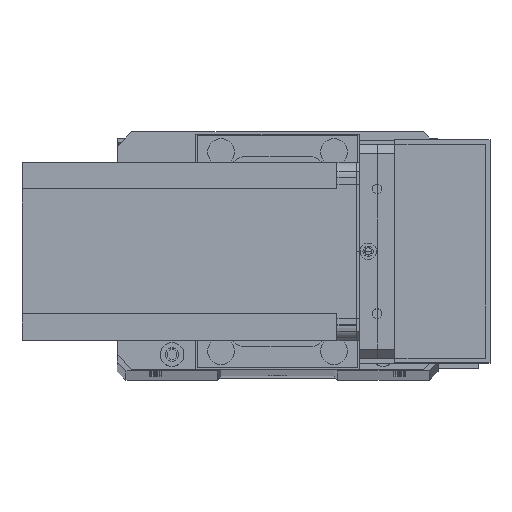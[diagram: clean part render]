
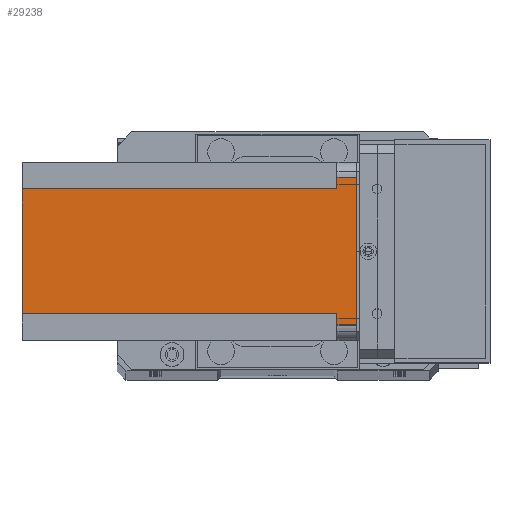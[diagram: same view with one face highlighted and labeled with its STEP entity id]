
A CAD part, top view. The second image highlights one B-rep face of the part: STEP entity #29238.
In plain terms, the highlighted planar face has unit normal (0, 0, 1) as drawn and (1, 0, 0) by its records, which use the part's own axes.
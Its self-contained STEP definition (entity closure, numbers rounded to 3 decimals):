
#108 = CARTESIAN_POINT ( 'NONE',  ( 60., 0., -112.5 ) ) ;
#279 = EDGE_CURVE ( 'NONE', #4803, #17675, #29519, .T. ) ;
#406 = CARTESIAN_POINT ( 'NONE',  ( 60., 0., -112.5 ) ) ;
#471 = EDGE_CURVE ( 'NONE', #31850, #15294, #11460, .T. ) ;
#1517 = EDGE_CURVE ( 'NONE', #4803, #31063, #29818, .T. ) ;
#1713 = FACE_OUTER_BOUND ( 'NONE', #19375, .T. ) ;
#2544 = VERTEX_POINT ( 'NONE', #11643 ) ;
#2596 = EDGE_CURVE ( 'NONE', #17675, #6983, #4299, .T. ) ;
#2654 = DIRECTION ( 'NONE',  ( 0., 1., 0. ) ) ;
#2778 = CARTESIAN_POINT ( 'NONE',  ( 60., 5., -112.5 ) ) ;
#2883 = VECTOR ( 'NONE', #11224, 1000. ) ;
#2948 = DIRECTION ( 'NONE',  ( 0., 1., 0. ) ) ;
#3171 = EDGE_CURVE ( 'NONE', #2544, #31850, #22657, .T. ) ;
#3598 = EDGE_CURVE ( 'NONE', #27562, #15294, #16804, .T. ) ;
#4249 = VECTOR ( 'NONE', #15239, 1000. ) ;
#4299 = LINE ( 'NONE', #14380, #30143 ) ;
#4426 = DIRECTION ( 'NONE',  ( 0., 0., -1. ) ) ;
#4661 = ORIENTED_EDGE ( 'NONE', *, *, #3598, .T. ) ;
#4803 = VERTEX_POINT ( 'NONE', #9864 ) ;
#5564 = VECTOR ( 'NONE', #2948, 1000. ) ;
#5661 = CARTESIAN_POINT ( 'NONE',  ( 60., 51., -112.5 ) ) ;
#6983 = VERTEX_POINT ( 'NONE', #5661 ) ;
#7196 = DIRECTION ( 'NONE',  ( 0., 1., 0. ) ) ;
#7968 = CARTESIAN_POINT ( 'NONE',  ( 60., 5., 0. ) ) ;
#8581 = DIRECTION ( 'NONE',  ( 0., 0., 1. ) ) ;
#9738 = ORIENTED_EDGE ( 'NONE', *, *, #1517, .T. ) ;
#9864 = CARTESIAN_POINT ( 'NONE',  ( 60., 55., -6.5 ) ) ;
#11224 = DIRECTION ( 'NONE',  ( 0., -1., 0. ) ) ;
#11460 = LINE ( 'NONE', #17427, #17372 ) ;
#11643 = CARTESIAN_POINT ( 'NONE',  ( 60., 9., -112.5 ) ) ;
#13779 = DIRECTION ( 'NONE',  ( 0., 0., 1. ) ) ;
#14345 = AXIS2_PLACEMENT_3D ( 'NONE', #108, #17633, #2654 ) ;
#14380 = CARTESIAN_POINT ( 'NONE',  ( 60., 51., -112.5 ) ) ;
#14905 = VECTOR ( 'NONE', #13779, 1000. ) ;
#15108 = PLANE ( 'NONE',  #14345 ) ;
#15239 = DIRECTION ( 'NONE',  ( 0., 0., -1. ) ) ;
#15294 = VERTEX_POINT ( 'NONE', #22376 ) ;
#16804 = LINE ( 'NONE', #2778, #4249 ) ;
#16871 = ORIENTED_EDGE ( 'NONE', *, *, #17987, .T. ) ;
#17372 = VECTOR ( 'NONE', #19905, 1000. ) ;
#17427 = CARTESIAN_POINT ( 'NONE',  ( 60., 0., -6.5 ) ) ;
#17633 = DIRECTION ( 'NONE',  ( 1., 0., 0. ) ) ;
#17675 = VERTEX_POINT ( 'NONE', #21445 ) ;
#17731 = VECTOR ( 'NONE', #7196, 1000. ) ;
#17848 = EDGE_CURVE ( 'NONE', #27562, #31063, #25156, .T. ) ;
#17987 = EDGE_CURVE ( 'NONE', #2544, #6983, #18113, .T. ) ;
#18113 = LINE ( 'NONE', #406, #5564 ) ;
#18204 = CARTESIAN_POINT ( 'NONE',  ( 60., 55., 0. ) ) ;
#19192 = ORIENTED_EDGE ( 'NONE', *, *, #2596, .F. ) ;
#19375 = EDGE_LOOP ( 'NONE', ( #23491, #9738, #23098, #4661, #21102, #27022, #16871, #19192 ) ) ;
#19905 = DIRECTION ( 'NONE',  ( 0., -1., 0. ) ) ;
#21102 = ORIENTED_EDGE ( 'NONE', *, *, #471, .F. ) ;
#21223 = CARTESIAN_POINT ( 'NONE',  ( 60., 55., -112.5 ) ) ;
#21445 = CARTESIAN_POINT ( 'NONE',  ( 60., 51., -6.5 ) ) ;
#22376 = CARTESIAN_POINT ( 'NONE',  ( 60., 5., -6.5 ) ) ;
#22657 = LINE ( 'NONE', #23609, #23471 ) ;
#23098 = ORIENTED_EDGE ( 'NONE', *, *, #17848, .F. ) ;
#23471 = VECTOR ( 'NONE', #8581, 1000. ) ;
#23491 = ORIENTED_EDGE ( 'NONE', *, *, #279, .F. ) ;
#23609 = CARTESIAN_POINT ( 'NONE',  ( 60., 9., -112.5 ) ) ;
#24704 = CARTESIAN_POINT ( 'NONE',  ( 60., 0., 0. ) ) ;
#25156 = LINE ( 'NONE', #24704, #17731 ) ;
#27022 = ORIENTED_EDGE ( 'NONE', *, *, #3171, .F. ) ;
#27562 = VERTEX_POINT ( 'NONE', #7968 ) ;
#29238 = ADVANCED_FACE ( 'NONE', ( #1713 ), #15108, .T. ) ;
#29519 = LINE ( 'NONE', #31836, #2883 ) ;
#29818 = LINE ( 'NONE', #21223, #14905 ) ;
#30143 = VECTOR ( 'NONE', #4426, 1000. ) ;
#31063 = VERTEX_POINT ( 'NONE', #18204 ) ;
#31836 = CARTESIAN_POINT ( 'NONE',  ( 60., 60., -6.5 ) ) ;
#31850 = VERTEX_POINT ( 'NONE', #32048 ) ;
#32048 = CARTESIAN_POINT ( 'NONE',  ( 60., 9., -6.5 ) ) ;
